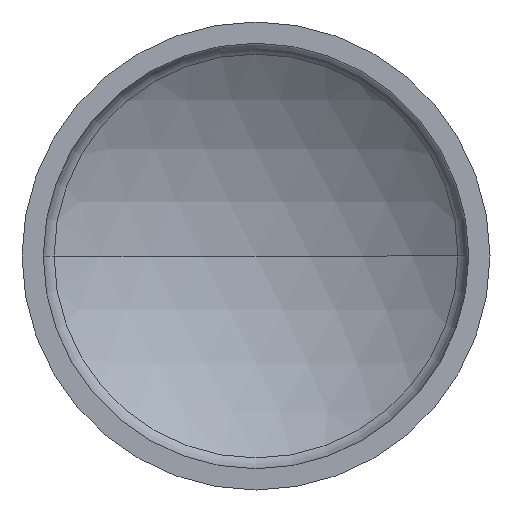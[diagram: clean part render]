
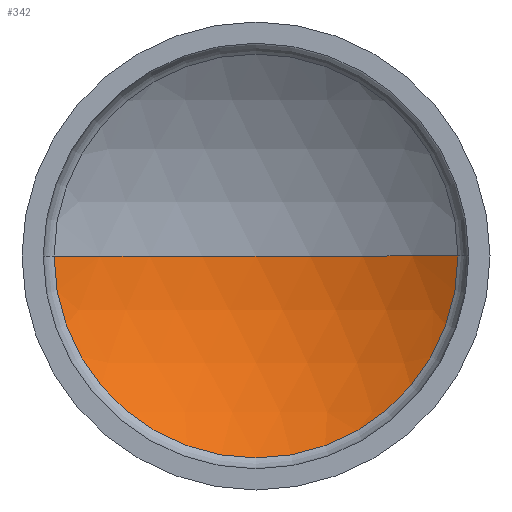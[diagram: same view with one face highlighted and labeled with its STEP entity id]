
A CAD part, front view. The second image highlights one B-rep face of the part: STEP entity #342.
In plain terms, the highlighted spherical face has radius 31.2 mm.
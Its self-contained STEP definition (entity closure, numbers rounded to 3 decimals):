
#45 = DIRECTION ( 'NONE',  ( 1., 0., 0. ) ) ;
#51 = CARTESIAN_POINT ( 'NONE',  ( 0., -20.2, 0. ) ) ;
#56 = DIRECTION ( 'NONE',  ( 0., 0., -1. ) ) ;
#63 = EDGE_CURVE ( 'NONE', #374, #211, #393, .T. ) ;
#70 = CARTESIAN_POINT ( 'NONE',  ( 18.982, 4.561, 0. ) ) ;
#75 = ORIENTED_EDGE ( 'NONE', *, *, #63, .F. ) ;
#129 = CARTESIAN_POINT ( 'NONE',  ( 0., -20.2, 0. ) ) ;
#135 = CARTESIAN_POINT ( 'NONE',  ( 0., 4.561, 0. ) ) ;
#136 = AXIS2_PLACEMENT_3D ( 'NONE', #135, #231, #383 ) ;
#142 = SPHERICAL_SURFACE ( 'NONE', #321, 31.2 ) ;
#143 = VERTEX_POINT ( 'NONE', #70 ) ;
#182 = ORIENTED_EDGE ( 'NONE', *, *, #252, .F. ) ;
#205 = ORIENTED_EDGE ( 'NONE', *, *, #299, .T. ) ;
#211 = VERTEX_POINT ( 'NONE', #354 ) ;
#219 = AXIS2_PLACEMENT_3D ( 'NONE', #129, #56, #320 ) ;
#231 = DIRECTION ( 'NONE',  ( 0., 1., 0. ) ) ;
#234 = DIRECTION ( 'NONE',  ( 0., 0., 1. ) ) ;
#242 = FACE_OUTER_BOUND ( 'NONE', #395, .T. ) ;
#252 = EDGE_CURVE ( 'NONE', #143, #374, #315, .T. ) ;
#271 = DIRECTION ( 'NONE',  ( 0., 0., 1. ) ) ;
#276 = CARTESIAN_POINT ( 'NONE',  ( -18.982, 4.561, 0. ) ) ;
#299 = EDGE_CURVE ( 'NONE', #143, #211, #381, .T. ) ;
#304 = CARTESIAN_POINT ( 'NONE',  ( 0., -20.2, 0. ) ) ;
#315 = CIRCLE ( 'NONE', #136, 18.982 ) ;
#320 = DIRECTION ( 'NONE',  ( -1., 0., 0. ) ) ;
#321 = AXIS2_PLACEMENT_3D ( 'NONE', #51, #271, #391 ) ;
#342 = ADVANCED_FACE ( 'NONE', ( #242 ), #142, .F. ) ;
#354 = CARTESIAN_POINT ( 'NONE',  ( 0., 11., 0. ) ) ;
#365 = AXIS2_PLACEMENT_3D ( 'NONE', #304, #234, #45 ) ;
#374 = VERTEX_POINT ( 'NONE', #276 ) ;
#381 = CIRCLE ( 'NONE', #365, 31.2 ) ;
#383 = DIRECTION ( 'NONE',  ( -1., 0., 0. ) ) ;
#391 = DIRECTION ( 'NONE',  ( -1., 0., 0. ) ) ;
#393 = CIRCLE ( 'NONE', #219, 31.2 ) ;
#395 = EDGE_LOOP ( 'NONE', ( #182, #205, #75 ) ) ;
